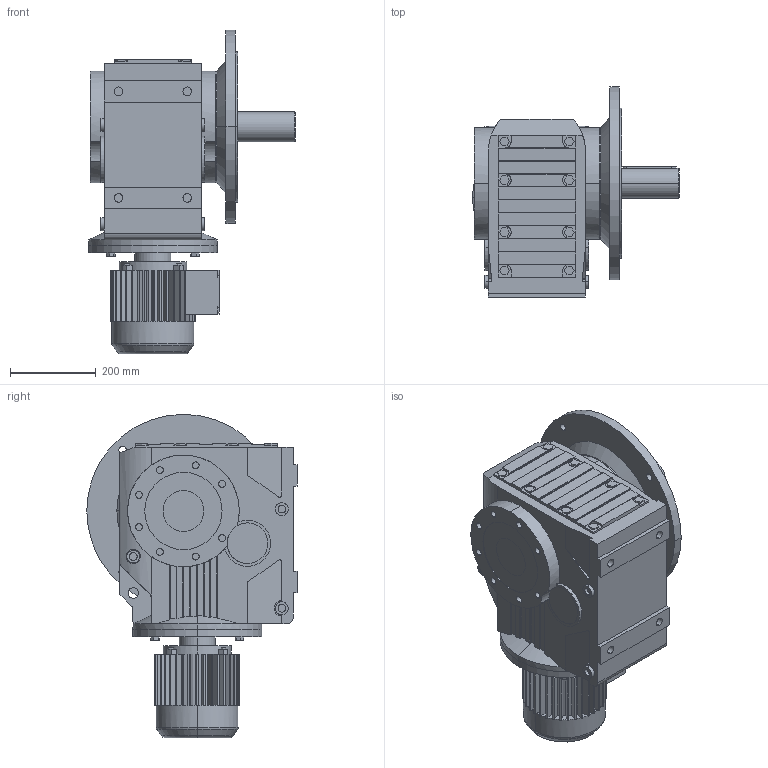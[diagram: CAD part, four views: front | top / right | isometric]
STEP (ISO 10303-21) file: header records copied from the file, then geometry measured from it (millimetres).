
FILE_DESCRIPTION(('Open CASCADE Model'),'2;1');
FILE_NAME('Open CASCADE Shape Model','2018-09-13T11:13:57',('Author'),( 'Open CASCADE'),'Open CASCADE STEP processor 6.3','Open CASCADE 6.3' ,'Unknown');
FILE_SCHEMA(('AUTOMOTIVE_DESIGN_CC2 { 1 2 10303 214 -1 1 5 4 }'));
Length unit declared in the file: millimetre
Products named in the file (5): 49_KF97DT90-A; KA37‵107_97.step; 萇儂_300-DT90-251-336-197-154.step; す瑩妗陑粣K_97.step; 楊擘K_97.step
Assembly tree (4 placements, depth 2):
  49_KF97DT90-A
    KA37‵107_97.step
    萇儂_300-DT90-251-336-197-154.step
    す瑩妗陑粣K_97.step
    楊擘K_97.step
Bounding box: 482 x 490 x 753 mm (x, y, z)
Volume: 51656270.3 mm3; surface area: 1897360.8 mm2
Topology: 4 solids, 4 shells, 881 faces, 2284 edges, 1484 vertices
Faces by surface type: plane 560, cylinder 301, cone 16, torus 4
Entity records: 65735 total; most frequent: CARTESIAN_POINT 22947, DIRECTION 7152, ORIENTED_EDGE 4564, PCURVE 4564, DEFINITIONAL_REPRESENTATION 4564, LINE 3641, VECTOR 3641, EDGE_CURVE 2282
